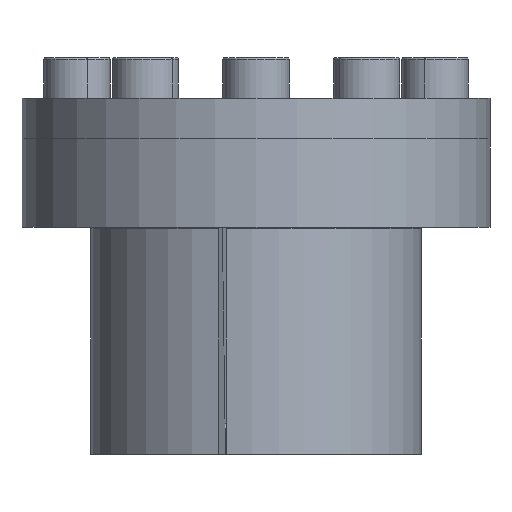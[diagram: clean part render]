
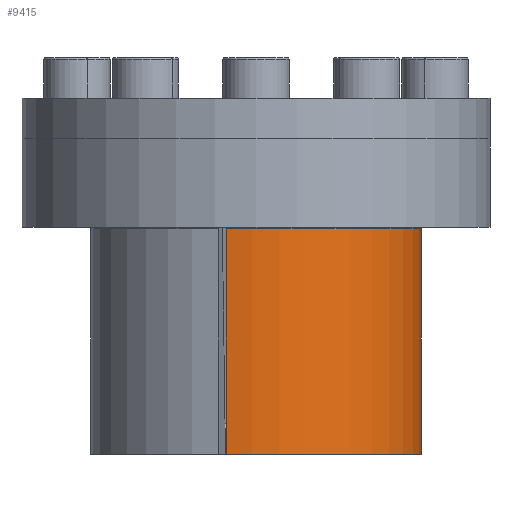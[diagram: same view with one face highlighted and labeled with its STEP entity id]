
A CAD part, front view. The second image highlights one B-rep face of the part: STEP entity #9415.
In plain terms, the highlighted cylindrical face has radius 32.5 mm (diameter 65 mm), a partial arc.
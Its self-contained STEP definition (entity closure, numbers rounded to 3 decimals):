
#44 = DIRECTION ( 'NONE',  ( 0., 0., -1. ) ) ;
#2279 = FACE_OUTER_BOUND ( 'NONE', #10786, .T. ) ;
#2652 = ORIENTED_EDGE ( 'NONE', *, *, #6829, .F. ) ;
#2871 = DIRECTION ( 'NONE',  ( 1., 0., 0. ) ) ;
#4037 = ORIENTED_EDGE ( 'NONE', *, *, #7104, .T. ) ;
#4097 = VECTOR ( 'NONE', #7516, 1000. ) ;
#4513 = DIRECTION ( 'NONE',  ( 0., 0., 1. ) ) ;
#4964 = AXIS2_PLACEMENT_3D ( 'NONE', #5242, #13742, #6459 ) ;
#5242 = CARTESIAN_POINT ( 'NONE',  ( 0., 0., -70.019 ) ) ;
#5605 = EDGE_CURVE ( 'NONE', #11474, #10729, #6686, .T. ) ;
#6286 = CARTESIAN_POINT ( 'NONE',  ( 32.5, 0., -25.019 ) ) ;
#6406 = DIRECTION ( 'NONE',  ( 0., 0., -1. ) ) ;
#6459 = DIRECTION ( 'NONE',  ( 1., 0., 0. ) ) ;
#6686 = LINE ( 'NONE', #11802, #9524 ) ;
#6756 = ORIENTED_EDGE ( 'NONE', *, *, #5605, .F. ) ;
#6829 = EDGE_CURVE ( 'NONE', #14814, #11474, #8639, .T. ) ;
#7104 = EDGE_CURVE ( 'NONE', #12352, #10729, #11627, .T. ) ;
#7306 = CARTESIAN_POINT ( 'NONE',  ( 0., 0., -25.619 ) ) ;
#7390 = AXIS2_PLACEMENT_3D ( 'NONE', #8866, #6406, #2871 ) ;
#7516 = DIRECTION ( 'NONE',  ( 0., 0., -1. ) ) ;
#8544 = DIRECTION ( 'NONE',  ( 1., 0., 0. ) ) ;
#8639 = CIRCLE ( 'NONE', #4964, 32.5 ) ;
#8866 = CARTESIAN_POINT ( 'NONE',  ( 0., 0., -25.019 ) ) ;
#9415 = ADVANCED_FACE ( 'NONE', ( #2279 ), #13270, .T. ) ;
#9524 = VECTOR ( 'NONE', #4513, 1000. ) ;
#9615 = CARTESIAN_POINT ( 'NONE',  ( -5.849, -31.969, -25.619 ) ) ;
#9766 = CARTESIAN_POINT ( 'NONE',  ( 32.5, 0., -70.019 ) ) ;
#10412 = ORIENTED_EDGE ( 'NONE', *, *, #12377, .F. ) ;
#10729 = VERTEX_POINT ( 'NONE', #9615 ) ;
#10786 = EDGE_LOOP ( 'NONE', ( #10412, #4037, #6756, #2652 ) ) ;
#11474 = VERTEX_POINT ( 'NONE', #13432 ) ;
#11627 = CIRCLE ( 'NONE', #15474, 32.5 ) ;
#11802 = CARTESIAN_POINT ( 'NONE',  ( -5.849, -31.969, -25.019 ) ) ;
#12352 = VERTEX_POINT ( 'NONE', #14794 ) ;
#12377 = EDGE_CURVE ( 'NONE', #12352, #14814, #13042, .T. ) ;
#13042 = LINE ( 'NONE', #6286, #4097 ) ;
#13270 = CYLINDRICAL_SURFACE ( 'NONE', #7390, 32.5 ) ;
#13432 = CARTESIAN_POINT ( 'NONE',  ( -5.849, -31.969, -70.019 ) ) ;
#13742 = DIRECTION ( 'NONE',  ( 0., 0., -1. ) ) ;
#14794 = CARTESIAN_POINT ( 'NONE',  ( 32.5, 0., -25.619 ) ) ;
#14814 = VERTEX_POINT ( 'NONE', #9766 ) ;
#15474 = AXIS2_PLACEMENT_3D ( 'NONE', #7306, #44, #8544 ) ;
